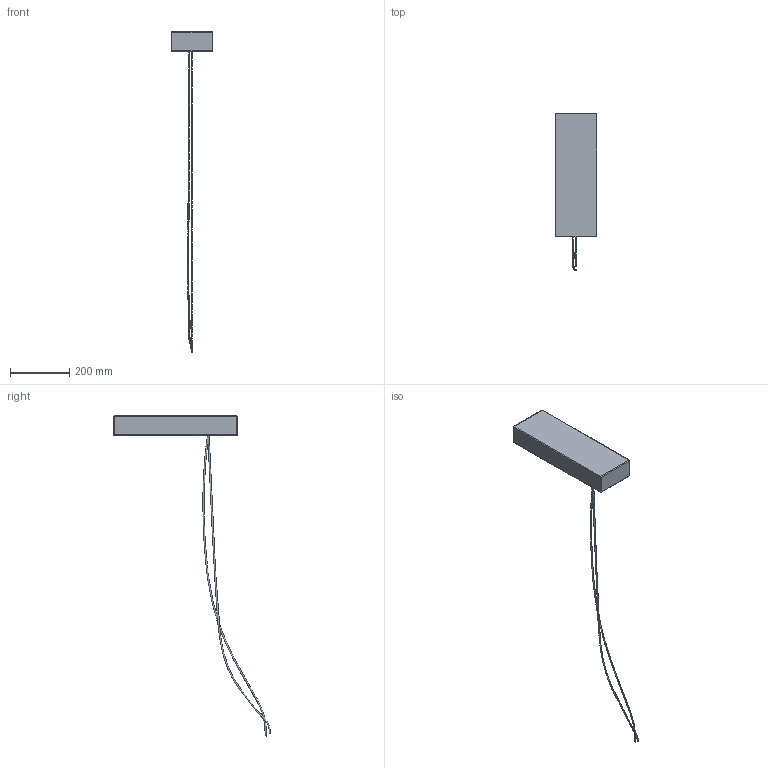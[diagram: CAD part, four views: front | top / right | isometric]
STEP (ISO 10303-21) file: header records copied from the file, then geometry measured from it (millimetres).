
FILE_DESCRIPTION(/* description */ (''),/* implementation_level */ '2;1');
FILE_NAME(/* name */ 'Big Rose (for 3 or 4 Dimmable modules config)',/* time_stamp */ '2018-11-07T17:42:35+01:00',/* author */ (''),/* organization */ (''),/* preprocessor_version */ 'ST-DEVELOPER v15',/* originating_system */ '',/* authorisation */ '');
FILE_SCHEMA (('AUTOMOTIVE_DESIGN'));
Length unit declared in the file: millimetre
Products named in the file (1): Document
Bounding box: 139 x 527.76 x 1076.21 mm (x, y, z)
Volume: 3782621.3 mm3; surface area: 212680.3 mm2
Topology: 3 solids, 3 shells, 44 faces, 82 edges, 46 vertices
Faces by surface type: bspline 32, plane 12
Entity records: 2415 total; most frequent: CARTESIAN_POINT 1871, ORIENTED_EDGE 164, EDGE_CURVE 82, EDGE_LOOP 46, VERTEX_POINT 46, ADVANCED_FACE 44, FACE_OUTER_BOUND 44, B_SPLINE_CURVE_WITH_KNOTS 24
